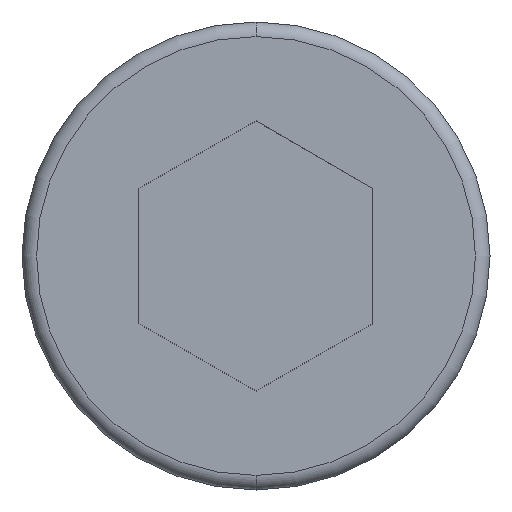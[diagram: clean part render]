
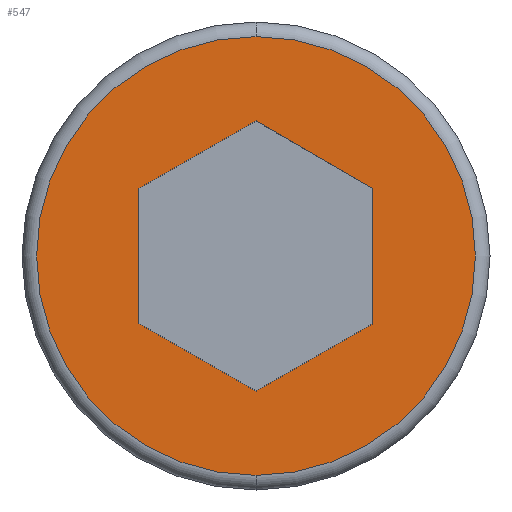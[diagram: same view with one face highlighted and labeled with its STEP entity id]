
A CAD part, front view. The second image highlights one B-rep face of the part: STEP entity #547.
In plain terms, the highlighted planar face has unit normal (0, -1, 0).
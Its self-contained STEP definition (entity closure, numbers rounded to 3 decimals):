
#17 = CARTESIAN_POINT ( 'NONE',  ( 0., -10., 4.619 ) ) ;
#18 = CARTESIAN_POINT ( 'NONE',  ( 4., -10., -2.309 ) ) ;
#19 = DIRECTION ( 'NONE',  ( 0., 0., -1. ) ) ;
#25 = DIRECTION ( 'NONE',  ( 0., -1., 0. ) ) ;
#28 = FACE_BOUND ( 'NONE', #747, .T. ) ;
#32 = VECTOR ( 'NONE', #280, 1000. ) ;
#33 = ORIENTED_EDGE ( 'NONE', *, *, #177, .F. ) ;
#37 = VECTOR ( 'NONE', #532, 1000. ) ;
#43 = VERTEX_POINT ( 'NONE', #120 ) ;
#50 = PLANE ( 'NONE',  #632 ) ;
#64 = CARTESIAN_POINT ( 'NONE',  ( 0., -10., 0. ) ) ;
#70 = LINE ( 'NONE', #17, #32 ) ;
#76 = LINE ( 'NONE', #689, #113 ) ;
#92 = CIRCLE ( 'NONE', #486, 7.5 ) ;
#100 = EDGE_CURVE ( 'NONE', #617, #43, #70, .T. ) ;
#113 = VECTOR ( 'NONE', #19, 1000. ) ;
#120 = CARTESIAN_POINT ( 'NONE',  ( -4., -10., 2.309 ) ) ;
#121 = AXIS2_PLACEMENT_3D ( 'NONE', #520, #538, #705 ) ;
#126 = LINE ( 'NONE', #740, #732 ) ;
#175 = VERTEX_POINT ( 'NONE', #339 ) ;
#177 = EDGE_CURVE ( 'NONE', #640, #695, #126, .T. ) ;
#189 = DIRECTION ( 'NONE',  ( 0., -1., 0. ) ) ;
#227 = CARTESIAN_POINT ( 'NONE',  ( 4., -10., 2.309 ) ) ;
#232 = ORIENTED_EDGE ( 'NONE', *, *, #701, .F. ) ;
#260 = CARTESIAN_POINT ( 'NONE',  ( 0., -10., -7.5 ) ) ;
#270 = ORIENTED_EDGE ( 'NONE', *, *, #479, .T. ) ;
#276 = ORIENTED_EDGE ( 'NONE', *, *, #647, .F. ) ;
#280 = DIRECTION ( 'NONE',  ( -0.866, 0., -0.5 ) ) ;
#339 = CARTESIAN_POINT ( 'NONE',  ( -4., -10., -2.309 ) ) ;
#345 = CARTESIAN_POINT ( 'NONE',  ( 0., -10., -4.619 ) ) ;
#375 = VERTEX_POINT ( 'NONE', #260 ) ;
#376 = ORIENTED_EDGE ( 'NONE', *, *, #765, .T. ) ;
#382 = LINE ( 'NONE', #525, #37 ) ;
#411 = CARTESIAN_POINT ( 'NONE',  ( 0., -10., 7.5 ) ) ;
#418 = EDGE_LOOP ( 'NONE', ( #376, #270 ) ) ;
#424 = VECTOR ( 'NONE', #460, 1000. ) ;
#445 = CIRCLE ( 'NONE', #121, 7.5 ) ;
#449 = ORIENTED_EDGE ( 'NONE', *, *, #100, .F. ) ;
#452 = EDGE_CURVE ( 'NONE', #43, #175, #76, .T. ) ;
#460 = DIRECTION ( 'NONE',  ( 0., 0., 1. ) ) ;
#469 = DIRECTION ( 'NONE',  ( 0., 0., -1. ) ) ;
#478 = DIRECTION ( 'NONE',  ( -0.866, 0., 0.5 ) ) ;
#479 = EDGE_CURVE ( 'NONE', #570, #375, #92, .T. ) ;
#486 = AXIS2_PLACEMENT_3D ( 'NONE', #774, #189, #717 ) ;
#495 = VECTOR ( 'NONE', #478, 1000. ) ;
#520 = CARTESIAN_POINT ( 'NONE',  ( 0., -10., 0. ) ) ;
#524 = LINE ( 'NONE', #227, #495 ) ;
#525 = CARTESIAN_POINT ( 'NONE',  ( -4., -10., -2.309 ) ) ;
#532 = DIRECTION ( 'NONE',  ( 0.866, 0., -0.5 ) ) ;
#538 = DIRECTION ( 'NONE',  ( 0., -1., 0. ) ) ;
#547 = ADVANCED_FACE ( 'NONE', ( #723, #28 ), #50, .T. ) ;
#550 = CARTESIAN_POINT ( 'NONE',  ( 0., -10., 4.619 ) ) ;
#553 = CARTESIAN_POINT ( 'NONE',  ( 4., -10., 2.309 ) ) ;
#556 = CARTESIAN_POINT ( 'NONE',  ( 4., -10., -2.309 ) ) ;
#560 = DIRECTION ( 'NONE',  ( 0.866, 0., 0.5 ) ) ;
#570 = VERTEX_POINT ( 'NONE', #411 ) ;
#572 = ORIENTED_EDGE ( 'NONE', *, *, #452, .F. ) ;
#608 = VERTEX_POINT ( 'NONE', #553 ) ;
#617 = VERTEX_POINT ( 'NONE', #550 ) ;
#632 = AXIS2_PLACEMENT_3D ( 'NONE', #64, #25, #469 ) ;
#640 = VERTEX_POINT ( 'NONE', #345 ) ;
#647 = EDGE_CURVE ( 'NONE', #608, #617, #524, .T. ) ;
#689 = CARTESIAN_POINT ( 'NONE',  ( -4., -10., 2.309 ) ) ;
#691 = LINE ( 'NONE', #18, #424 ) ;
#695 = VERTEX_POINT ( 'NONE', #556 ) ;
#701 = EDGE_CURVE ( 'NONE', #695, #608, #691, .T. ) ;
#705 = DIRECTION ( 'NONE',  ( 0., 0., -1. ) ) ;
#717 = DIRECTION ( 'NONE',  ( 0., 0., -1. ) ) ;
#723 = FACE_OUTER_BOUND ( 'NONE', #418, .T. ) ;
#725 = ORIENTED_EDGE ( 'NONE', *, *, #737, .F. ) ;
#732 = VECTOR ( 'NONE', #560, 1000. ) ;
#737 = EDGE_CURVE ( 'NONE', #175, #640, #382, .T. ) ;
#740 = CARTESIAN_POINT ( 'NONE',  ( 0., -10., -4.619 ) ) ;
#747 = EDGE_LOOP ( 'NONE', ( #232, #33, #725, #572, #449, #276 ) ) ;
#765 = EDGE_CURVE ( 'NONE', #375, #570, #445, .T. ) ;
#774 = CARTESIAN_POINT ( 'NONE',  ( 0., -10., 0. ) ) ;
